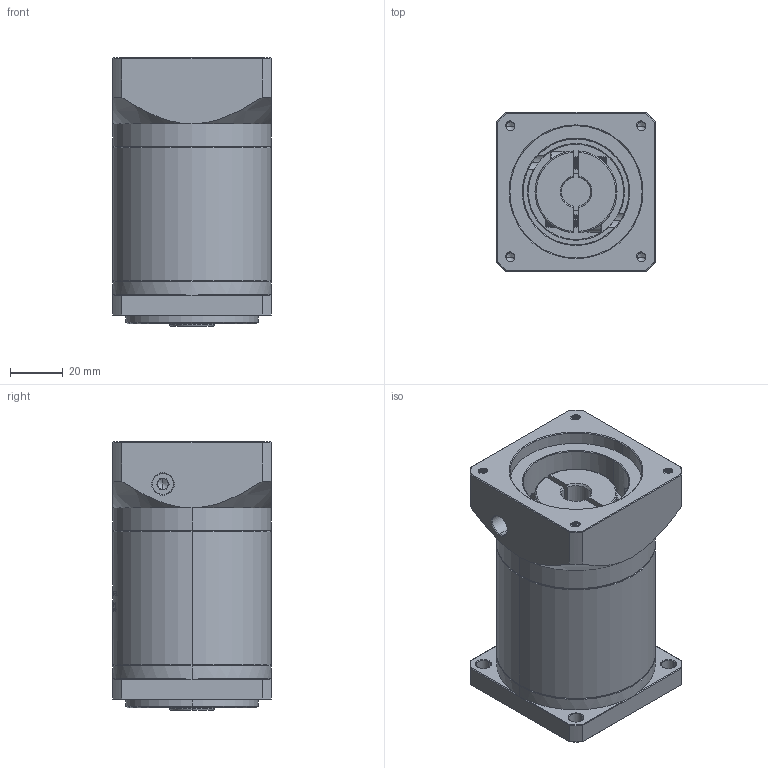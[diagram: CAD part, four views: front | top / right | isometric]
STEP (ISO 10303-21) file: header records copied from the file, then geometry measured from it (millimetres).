
FILE_DESCRIPTION (( 'STEP AP214' ), '1' );
FILE_NAME ('ZF60-K10-L2-11-50-70-M4.STEP', '2022-04-17T11:37:38', ( '' ), ( 'Microsoft' ), 'SwSTEP 2.0', 'SolidWorks 2016', '' );
FILE_SCHEMA (( 'AUTOMOTIVE_DESIGN' ));
Length unit declared in the file: millimetre
Products named in the file (1): ZF60-K10-L2-11-50-70-M4
Bounding box: 60 x 60 x 101.5 mm (x, y, z)
Volume: 264183.1 mm3; surface area: 45999.6 mm2
Topology: 6 solids, 6 shells, 1559 faces, 4216 edges, 2732 vertices
Faces by surface type: plane 737, bspline 292, cylinder 284, cone 228, torus 18
Entity records: 82837 total; most frequent: CARTESIAN_POINT 29871, ORIENTED_EDGE 8408, DIRECTION 6221, EDGE_CURVE 4204, VERTEX_POINT 2732, LINE 2157, VECTOR 2157, AXIS2_PLACEMENT_3D 2032
